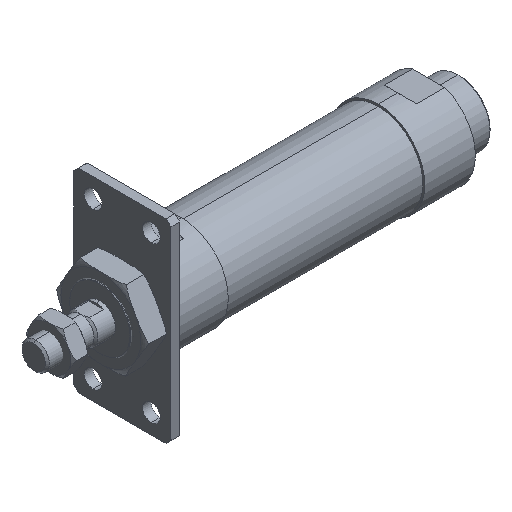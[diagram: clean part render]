
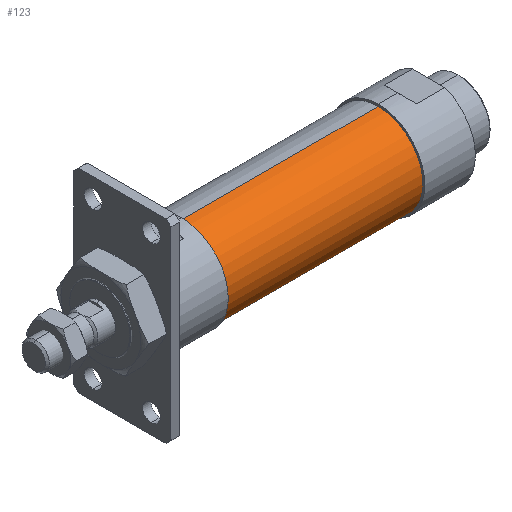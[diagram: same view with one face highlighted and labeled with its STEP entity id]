
A CAD part, isometric view. The second image highlights one B-rep face of the part: STEP entity #123.
In plain terms, the highlighted cylindrical face has radius 23 mm (diameter 46 mm), a partial arc.
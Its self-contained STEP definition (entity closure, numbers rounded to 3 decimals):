
#69 = CYLINDRICAL_SURFACE ( 'NONE', #339, 23. ) ;
#81 = ORIENTED_EDGE ( 'NONE', *, *, #1700, .F. ) ;
#123 = ADVANCED_FACE ( 'NONE', ( #3180 ), #69, .T. ) ;
#176 = ORIENTED_EDGE ( 'NONE', *, *, #1137, .F. ) ;
#264 = CARTESIAN_POINT ( 'NONE',  ( 177., 0., -23. ) ) ;
#297 = VERTEX_POINT ( 'NONE', #3834 ) ;
#321 = VECTOR ( 'NONE', #1998, 1000. ) ;
#339 = AXIS2_PLACEMENT_3D ( 'NONE', #1441, #3195, #1233 ) ;
#411 = EDGE_CURVE ( 'NONE', #297, #1580, #3589, .T. ) ;
#669 = DIRECTION ( 'NONE',  ( -1., 0., 0. ) ) ;
#773 = AXIS2_PLACEMENT_3D ( 'NONE', #3973, #3028, #4142 ) ;
#897 = CIRCLE ( 'NONE', #773, 23. ) ;
#1114 = EDGE_CURVE ( 'NONE', #2798, #297, #3988, .T. ) ;
#1137 = EDGE_CURVE ( 'NONE', #3430, #1580, #897, .T. ) ;
#1203 = DIRECTION ( 'NONE',  ( 0., 0., 1. ) ) ;
#1233 = DIRECTION ( 'NONE',  ( 0., 0., 1. ) ) ;
#1441 = CARTESIAN_POINT ( 'NONE',  ( -1.784, 0., 0. ) ) ;
#1574 = DIRECTION ( 'NONE',  ( -1., 0., 0. ) ) ;
#1580 = VERTEX_POINT ( 'NONE', #2062 ) ;
#1700 = EDGE_CURVE ( 'NONE', #2798, #3430, #3833, .T. ) ;
#1878 = EDGE_LOOP ( 'NONE', ( #81, #2201, #3930, #176 ) ) ;
#1998 = DIRECTION ( 'NONE',  ( -1., 0., 0. ) ) ;
#2062 = CARTESIAN_POINT ( 'NONE',  ( 76., 0., 23. ) ) ;
#2195 = CARTESIAN_POINT ( 'NONE',  ( 76., 0., -23. ) ) ;
#2201 = ORIENTED_EDGE ( 'NONE', *, *, #1114, .T. ) ;
#2428 = VECTOR ( 'NONE', #1574, 1000. ) ;
#2496 = CARTESIAN_POINT ( 'NONE',  ( -1.784, 0., 23. ) ) ;
#2533 = CARTESIAN_POINT ( 'NONE',  ( 177., 0., 0. ) ) ;
#2798 = VERTEX_POINT ( 'NONE', #264 ) ;
#2946 = CARTESIAN_POINT ( 'NONE',  ( -1.784, 0., -23. ) ) ;
#3028 = DIRECTION ( 'NONE',  ( -1., 0., 0. ) ) ;
#3180 = FACE_OUTER_BOUND ( 'NONE', #1878, .T. ) ;
#3195 = DIRECTION ( 'NONE',  ( -1., 0., 0. ) ) ;
#3430 = VERTEX_POINT ( 'NONE', #2195 ) ;
#3589 = LINE ( 'NONE', #2496, #2428 ) ;
#3633 = AXIS2_PLACEMENT_3D ( 'NONE', #2533, #669, #1203 ) ;
#3833 = LINE ( 'NONE', #2946, #321 ) ;
#3834 = CARTESIAN_POINT ( 'NONE',  ( 177., 0., 23. ) ) ;
#3930 = ORIENTED_EDGE ( 'NONE', *, *, #411, .T. ) ;
#3973 = CARTESIAN_POINT ( 'NONE',  ( 76., 0., 0. ) ) ;
#3988 = CIRCLE ( 'NONE', #3633, 23. ) ;
#4142 = DIRECTION ( 'NONE',  ( 0., 0., 1. ) ) ;
